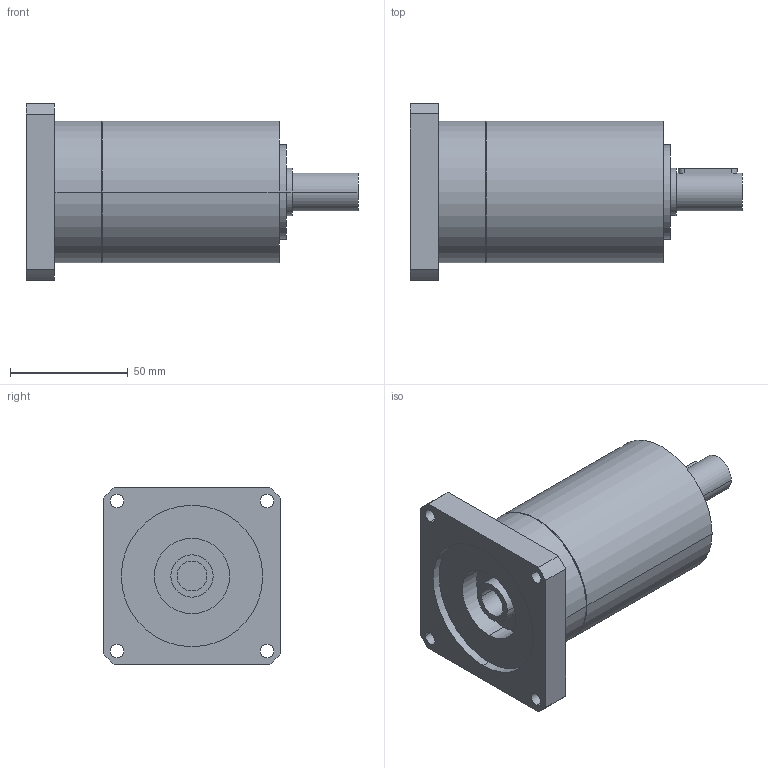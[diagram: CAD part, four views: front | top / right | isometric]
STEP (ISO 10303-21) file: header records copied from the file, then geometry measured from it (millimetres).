
FILE_DESCRIPTION(('CoCreate Modeling STEP Export'),'2;1');
FILE_NAME('GPR75_ig-9-12-16-20-24-30-36_16_B14_12.7_P15.stp','2014-08-25T16:02:24',(''),(''),'CoCreate Modeling STEP processor for AP214 (Solid Model)','CoCreate Modeling 16.00C 25-Feb-2009 (C) Parametric Technology GmbH','');
FILE_SCHEMA(('AUTOMOTIVE_DESIGN { 1 0 10303 214 1 1 1 1 }'));
Length unit declared in the file: millimetre
Products named in the file (2): GPR75_ig-9-12-16-20-24-30-36_16_B14_12.7_P15
Assembly tree (1 placements, depth 2):
  GPR75_ig-9-12-16-20-24-30-36_16_B14_12.7_P15
    GPR75_ig-9-12-16-20-24-30-36_16_B14_12.7_P15
Bounding box: 140.9 x 75 x 75 mm (x, y, z)
Volume: 326281 mm3; surface area: 39345.7 mm2
Topology: 1 solids, 1 shells, 70 faces, 186 edges, 130 vertices
Faces by surface type: cylinder 42, plane 22, cone 6
Entity records: 1929 total; most frequent: ORIENTED_EDGE 368, CARTESIAN_POINT 358, DIRECTION 262, EDGE_CURVE 184, VERTEX_POINT 130, AXIS2_PLACEMENT_3D 98, EDGE_LOOP 92, FACE_OUTER_BOUND 70
